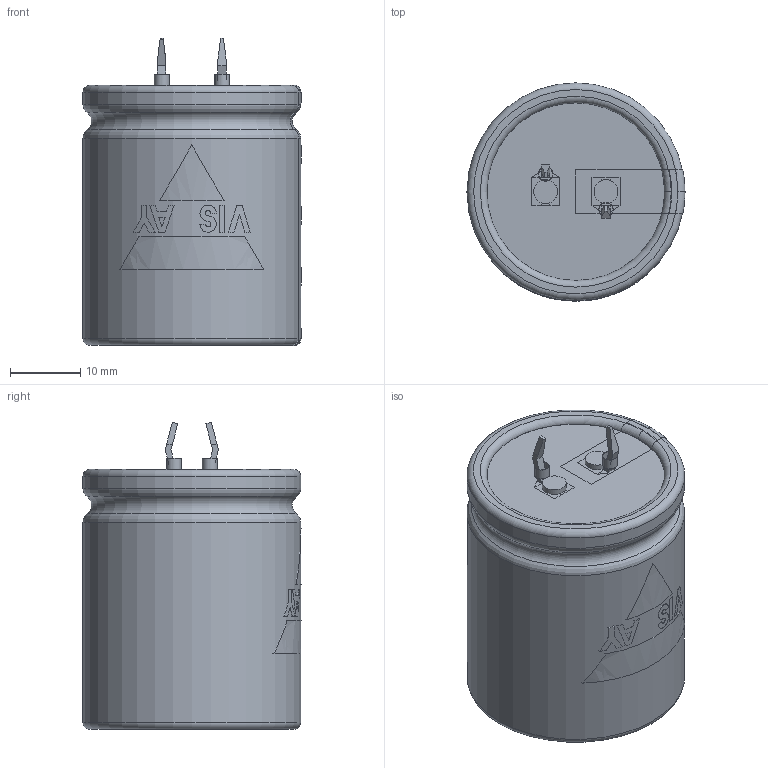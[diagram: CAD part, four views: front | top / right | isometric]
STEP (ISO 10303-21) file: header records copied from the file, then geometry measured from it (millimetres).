
FILE_DESCRIPTION(('FreeCAD Model'),'2;1');
FILE_NAME( 'C:/Users/Gebruiker/Documents/FreeCAD/SnapIn_30x35_2pin_5.8.step', '2020-11-12T20:21:39',('Author'),(''), 'Open CASCADE STEP processor 6.8','FreeCAD','Unknown');
FILE_SCHEMA(('AUTOMOTIVE_DESIGN_CC2 { 1 2 10303 214 -1 1 5 4 }'));
Length unit declared in the file: millimetre
Products named in the file (9): ASSEMBLY; TerminalMin; TerminalPlus; PCBHoles; Disc; BottomInsulation; Can3D; InkMinusBar; InkLogo
Assembly tree (8 placements, depth 2):
  ASSEMBLY
    TerminalMin
    TerminalPlus
    PCBHoles
    Disc
    BottomInsulation
    Can3D
    InkMinusBar
    InkLogo
Bounding box: 31.05 x 31.05 x 43.75 mm (x, y, z)
Volume: 31833.4 mm3; surface area: 12553.7 mm2
Topology: 15 solids, 15 shells, 184 faces, 454 edges, 298 vertices
Faces by surface type: plane 138, cylinder 28, torus 18
Full cylindrical faces by diameter (mm): 2 x2, 2.1 x2, 3.4 x2, 24.8 x2, 25.3 x1, 31 x2
Entity records: 19203 total; most frequent: CARTESIAN_POINT 9011, DIRECTION 1597, ORIENTED_EDGE 908, PCURVE 908, DEFINITIONAL_REPRESENTATION 908, LINE 901, VECTOR 901, EDGE_CURVE 454
